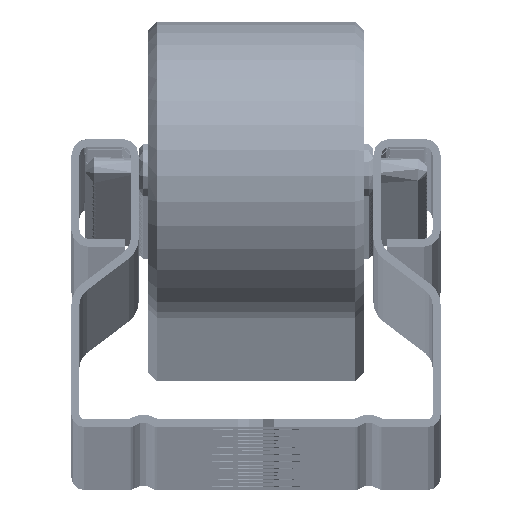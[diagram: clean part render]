
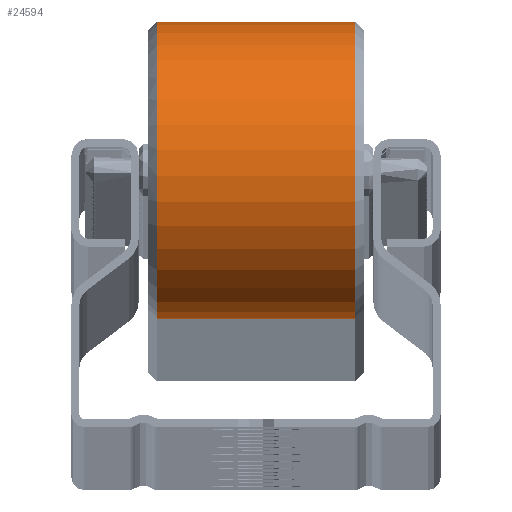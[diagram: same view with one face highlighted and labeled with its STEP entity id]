
A CAD part, top view. The second image highlights one B-rep face of the part: STEP entity #24594.
In plain terms, the highlighted cylindrical face has radius 16.5 mm (diameter 33 mm), a full revolution.
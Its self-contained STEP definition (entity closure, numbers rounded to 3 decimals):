
#5496 = DIRECTION ( 'NONE',  ( -1., 0., 0. ) ) ;
#24594 = ADVANCED_FACE ( 'NONE', ( #212966, #244497 ), #116514, .T. ) ;
#30590 = CARTESIAN_POINT ( 'NONE',  ( -12.421, 15.578, 4061.5 ) ) ;
#43322 = AXIS2_PLACEMENT_3D ( 'NONE', #30590, #164435, #223345 ) ;
#70000 = CIRCLE ( 'NONE', #43322, 16.5 ) ;
#72439 = VERTEX_POINT ( 'NONE', #172862 ) ;
#110467 = EDGE_LOOP ( 'NONE', ( #148345 ) ) ;
#116514 = CYLINDRICAL_SURFACE ( 'NONE', #297350, 16.5 ) ;
#148345 = ORIENTED_EDGE ( 'NONE', *, *, #174812, .T. ) ;
#152343 = CARTESIAN_POINT ( 'NONE',  ( 9.579, 12.117, 4077.633 ) ) ;
#158363 = CARTESIAN_POINT ( 'NONE',  ( 9.579, 15.578, 4061.5 ) ) ;
#164435 = DIRECTION ( 'NONE',  ( 1., 0., 0. ) ) ;
#172862 = CARTESIAN_POINT ( 'NONE',  ( -12.421, 12.117, 4077.633 ) ) ;
#174812 = EDGE_CURVE ( 'NONE', #72439, #72439, #70000, .T. ) ;
#177299 = DIRECTION ( 'NONE',  ( 0., -0.21, 0.978 ) ) ;
#181398 = CARTESIAN_POINT ( 'NONE',  ( -13.421, 15.578, 4061.5 ) ) ;
#212966 = FACE_OUTER_BOUND ( 'NONE', #337225, .T. ) ;
#223345 = DIRECTION ( 'NONE',  ( 0., -0.21, 0.978 ) ) ;
#229600 = DIRECTION ( 'NONE',  ( 0., -0.21, 0.978 ) ) ;
#244497 = FACE_OUTER_BOUND ( 'NONE', #110467, .T. ) ;
#257412 = ORIENTED_EDGE ( 'NONE', *, *, #347772, .T. ) ;
#293310 = AXIS2_PLACEMENT_3D ( 'NONE', #158363, #5496, #229600 ) ;
#297350 = AXIS2_PLACEMENT_3D ( 'NONE', #181398, #309275, #177299 ) ;
#309275 = DIRECTION ( 'NONE',  ( 1., 0., 0. ) ) ;
#337225 = EDGE_LOOP ( 'NONE', ( #257412 ) ) ;
#347772 = EDGE_CURVE ( 'NONE', #372220, #372220, #360011, .T. ) ;
#360011 = CIRCLE ( 'NONE', #293310, 16.5 ) ;
#372220 = VERTEX_POINT ( 'NONE', #152343 ) ;
